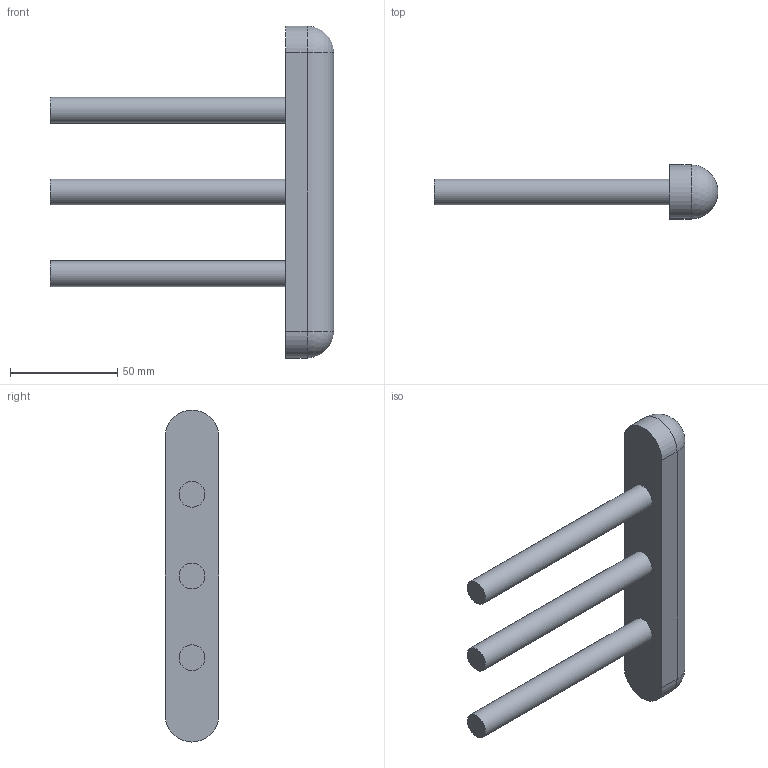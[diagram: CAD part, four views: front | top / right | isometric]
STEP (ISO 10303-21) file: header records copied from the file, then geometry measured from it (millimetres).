
FILE_DESCRIPTION(('STEP AP242'), '1');
FILE_NAME('婰膲僗闉', '', ('UNSPECIFIED'), ('UNSPECIFIED'), 'C3D Converter', 'C3D Toolkit', '');
FILE_SCHEMA(('AP242_MANAGED_MODEL_BASED_3D_ENGINEERING_MIM_LF { 1 0 10303 442 1 1 4 }'));
Length unit declared in the file: millimetre
Bounding box: 132.5 x 25 x 155 mm (x, y, z)
Volume: 110728.3 mm3; surface area: 25653.8 mm2
Topology: 1 solids, 1 shells, 14 faces, 27 edges, 16 vertices
Faces by surface type: cylinder 6, plane 6, sphere 2
Full cylindrical faces by diameter (mm): 12 x3
Entity records: 372 total; most frequent: DIRECTION 66, CARTESIAN_POINT 53, ORIENTED_EDGE 44, AXIS2_PLACEMENT_3D 29, EDGE_CURVE 22, EDGE_LOOP 20, VERTEX_POINT 16, ADVANCED_FACE 14
